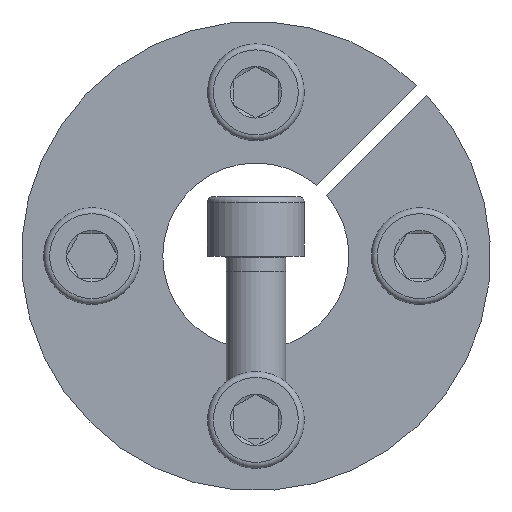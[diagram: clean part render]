
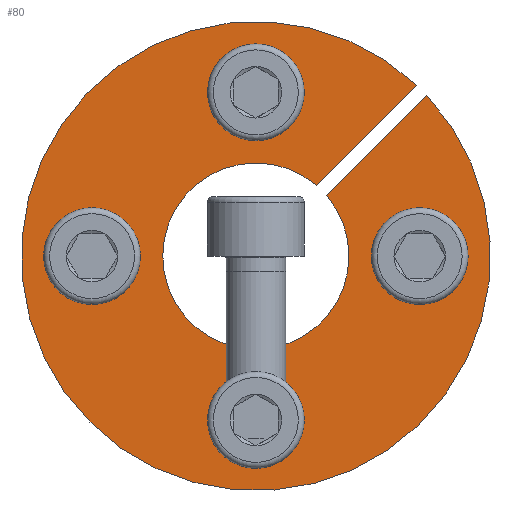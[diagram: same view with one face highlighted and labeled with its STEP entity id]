
A CAD part, front view. The second image highlights one B-rep face of the part: STEP entity #80.
In plain terms, the highlighted planar face has unit normal (0, -1, 0).
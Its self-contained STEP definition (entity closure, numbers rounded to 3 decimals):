
#80 = ADVANCED_FACE( '', ( #171, #172, #173, #174, #175 ), #176, .F. );
#171 = FACE_OUTER_BOUND( '', #277, .T. );
#172 = FACE_BOUND( '', #278, .T. );
#173 = FACE_BOUND( '', #279, .T. );
#174 = FACE_BOUND( '', #280, .T. );
#175 = FACE_BOUND( '', #281, .T. );
#176 = PLANE( '', #282 );
#277 = EDGE_LOOP( '', ( #438, #439, #440, #441 ) );
#278 = EDGE_LOOP( '', ( #442 ) );
#279 = EDGE_LOOP( '', ( #443 ) );
#280 = EDGE_LOOP( '', ( #444 ) );
#281 = EDGE_LOOP( '', ( #445 ) );
#282 = AXIS2_PLACEMENT_3D( '', #446, #447, #448 );
#438 = ORIENTED_EDGE( '', *, *, #637, .T. );
#439 = ORIENTED_EDGE( '', *, *, #638, .T. );
#440 = ORIENTED_EDGE( '', *, *, #639, .T. );
#441 = ORIENTED_EDGE( '', *, *, #626, .F. );
#442 = ORIENTED_EDGE( '', *, *, #640, .F. );
#443 = ORIENTED_EDGE( '', *, *, #607, .F. );
#444 = ORIENTED_EDGE( '', *, *, #593, .F. );
#445 = ORIENTED_EDGE( '', *, *, #641, .F. );
#446 = CARTESIAN_POINT( '', ( 0., 0., 31.5 ) );
#447 = DIRECTION( '', ( 0., 1., 0. ) );
#448 = DIRECTION( '', ( 1., 0., 0. ) );
#593 = EDGE_CURVE( '', #720, #720, #721, .T. );
#607 = EDGE_CURVE( '', #745, #745, #746, .T. );
#626 = EDGE_CURVE( '', #776, #778, #779, .T. );
#637 = EDGE_CURVE( '', #776, #796, #797, .T. );
#638 = EDGE_CURVE( '', #796, #798, #799, .T. );
#639 = EDGE_CURVE( '', #798, #778, #800, .T. );
#640 = EDGE_CURVE( '', #801, #801, #802, .T. );
#641 = EDGE_CURVE( '', #803, #803, #804, .T. );
#720 = VERTEX_POINT( '', #967 );
#721 = CIRCLE( '', #968, 4.5 );
#745 = VERTEX_POINT( '', #994 );
#746 = CIRCLE( '', #995, 4.5 );
#776 = VERTEX_POINT( '', #1039 );
#778 = VERTEX_POINT( '', #1042 );
#779 = CIRCLE( '', #1043, 12.5 );
#796 = VERTEX_POINT( '', #1063 );
#797 = LINE( '', #1064, #1065 );
#798 = VERTEX_POINT( '', #1066 );
#799 = CIRCLE( '', #1067, 31.5 );
#800 = LINE( '', #1068, #1069 );
#801 = VERTEX_POINT( '', #1070 );
#802 = CIRCLE( '', #1071, 4.5 );
#803 = VERTEX_POINT( '', #1072 );
#804 = CIRCLE( '', #1073, 4.5 );
#967 = CARTESIAN_POINT( '', ( -4.5, 0., -22. ) );
#968 = AXIS2_PLACEMENT_3D( '', #1131, #1132, #1133 );
#994 = CARTESIAN_POINT( '', ( 22., 0., -4.5 ) );
#995 = AXIS2_PLACEMENT_3D( '', #1160, #1161, #1162 );
#1039 = CARTESIAN_POINT( '', ( 8.103, 0., 9.518 ) );
#1042 = CARTESIAN_POINT( '', ( 9.518, 0., 8.103 ) );
#1043 = AXIS2_PLACEMENT_3D( '', #1187, #1188, #1189 );
#1063 = CARTESIAN_POINT( '', ( 21.556, 0., 22.97 ) );
#1064 = CARTESIAN_POINT( '', ( 8.103, 0., 9.518 ) );
#1065 = VECTOR( '', #1208, 1000. );
#1066 = CARTESIAN_POINT( '', ( 22.97, 0., 21.556 ) );
#1067 = AXIS2_PLACEMENT_3D( '', #1209, #1210, #1211 );
#1068 = CARTESIAN_POINT( '', ( 22.981, 0., 21.567 ) );
#1069 = VECTOR( '', #1212, 1000. );
#1070 = CARTESIAN_POINT( '', ( 4.5, 0., 22. ) );
#1071 = AXIS2_PLACEMENT_3D( '', #1213, #1214, #1215 );
#1072 = CARTESIAN_POINT( '', ( -22., 0., 4.5 ) );
#1073 = AXIS2_PLACEMENT_3D( '', #1216, #1217, #1218 );
#1131 = CARTESIAN_POINT( '', ( 0., 0., -22. ) );
#1132 = DIRECTION( '', ( 0., -1., 0. ) );
#1133 = DIRECTION( '', ( -1., 0., 0. ) );
#1160 = CARTESIAN_POINT( '', ( 22., 0., 0. ) );
#1161 = DIRECTION( '', ( 0., -1., 0. ) );
#1162 = DIRECTION( '', ( 0., 0., -1. ) );
#1187 = CARTESIAN_POINT( '', ( 0., 0., 0. ) );
#1188 = DIRECTION( '', ( 0., -1., 0. ) );
#1189 = DIRECTION( '', ( 0., 0., -1. ) );
#1208 = DIRECTION( '', ( 0.707, 0., 0.707 ) );
#1209 = CARTESIAN_POINT( '', ( 0., 0., 0. ) );
#1210 = DIRECTION( '', ( 0., -1., 0. ) );
#1211 = DIRECTION( '', ( 0., 0., -1. ) );
#1212 = DIRECTION( '', ( -0.707, 0., -0.707 ) );
#1213 = CARTESIAN_POINT( '', ( 0., 0., 22. ) );
#1214 = DIRECTION( '', ( 0., -1., 0. ) );
#1215 = DIRECTION( '', ( 1., 0., 0. ) );
#1216 = CARTESIAN_POINT( '', ( -22., 0., 0. ) );
#1217 = DIRECTION( '', ( 0., -1., 0. ) );
#1218 = DIRECTION( '', ( 0., 0., 1. ) );
